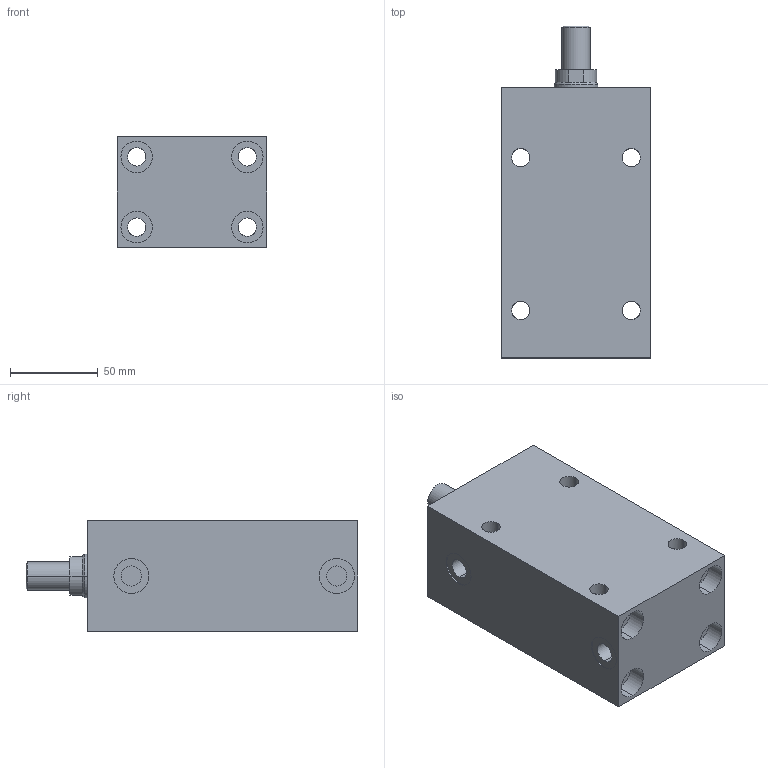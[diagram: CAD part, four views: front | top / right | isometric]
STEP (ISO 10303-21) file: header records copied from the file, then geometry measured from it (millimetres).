
FILE_DESCRIPTION (( 'STEP AP203' ), '1' );
FILE_NAME ('GERMA_Blockzylinder_600-040-100-A.STEP', '2016-04-06T15:53:29', ( '' ), ( '' ), 'SwSTEP 2.0', 'SolidWorks 2015', '' );
FILE_SCHEMA (( 'CONFIG_CONTROL_DESIGN' ));
Length unit declared in the file: millimetre
Products named in the file (3): GH-600-040_GH-600-040-100; Kolben 60x-040_Kolben DU.40-Hub100-AG; GERMA_Blockzylinder_600-040-100-A
Assembly tree (2 placements, depth 2):
  GERMA_Blockzylinder_600-040-100-A
    GH-600-040_GH-600-040-100
    Kolben 60x-040_Kolben DU.40-Hub100-AG
Bounding box: 85 x 189 x 63 mm (x, y, z)
Volume: 670768.4 mm3; surface area: 117891.1 mm2
Topology: 2 solids, 2 shells, 133 faces, 318 edges, 189 vertices
Faces by surface type: cylinder 91, plane 30, cone 12
Entity records: 4158 total; most frequent: CARTESIAN_POINT 833, DIRECTION 655, ORIENTED_EDGE 628, EDGE_CURVE 314, AXIS2_PLACEMENT_3D 267, VERTEX_POINT 189, EDGE_LOOP 169, ADVANCED_FACE 133
